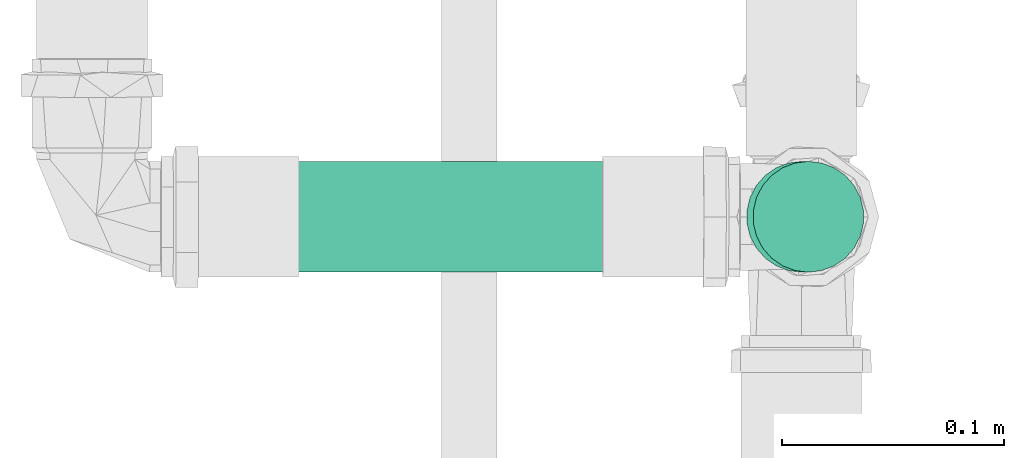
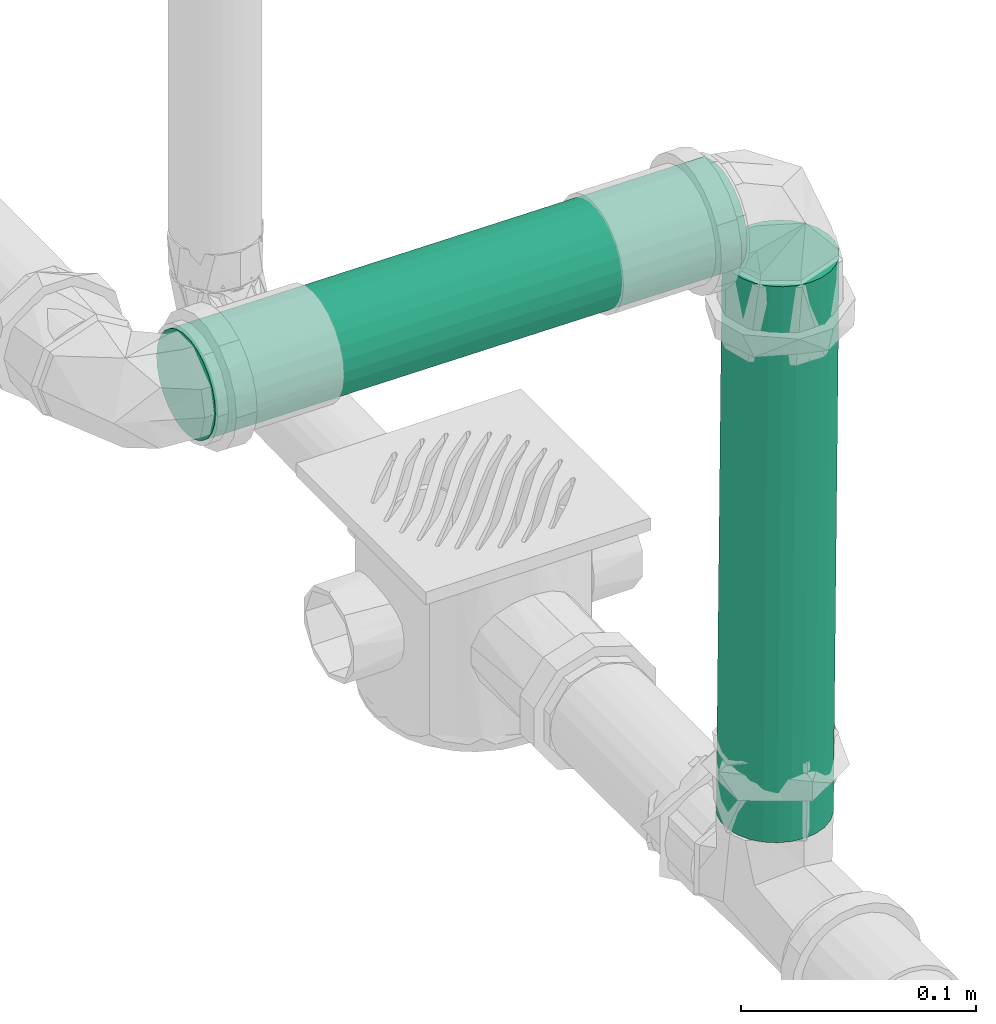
# One storey, part 183 of 589: 2 flow segments.
"""IFC2X3 building model written with IfcOpenShell, lengths in millimetres."""

from ifc_helpers import new_model, entity, si_unit, converted_unit, derived_unit, direction, frame, frame_2d, origin, place, context, subcontext, project, spatial, circle, extrude, type_object, element, save


model = new_model("IFC2X3")

# Units and contexts
model_context = context("Model", 3, precision=0.01, world=origin(), true_north=direction((6.123031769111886e-17, 1.0)))
body_context = subcontext(model_context, "Body", "Model", "MODEL_VIEW")
ifc_project = project(units=[si_unit("LENGTHUNIT", "METRE", prefix="MILLI"), si_unit("AREAUNIT", "SQUARE_METRE"), si_unit("VOLUMEUNIT", "CUBIC_METRE"), converted_unit("PLANEANGLEUNIT", "DEGREE", entity("IfcRatioMeasure", 0.017453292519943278), si_unit("PLANEANGLEUNIT", "RADIAN"), dimensions=[0, 0, 0, 0, 0, 0, 0]), si_unit("MASSUNIT", "GRAM", prefix="KILO"), derived_unit("MASSDENSITYUNIT", [(si_unit("MASSUNIT", "GRAM", prefix="KILO"), 1), (si_unit("LENGTHUNIT", "METRE"), -3)]), derived_unit("IONCONCENTRATIONUNIT", [(si_unit("MASSUNIT", "GRAM", prefix="KILO"), 1), (si_unit("LENGTHUNIT", "METRE"), -3)]), derived_unit("MOMENTOFINERTIAUNIT", [(si_unit("LENGTHUNIT", "METRE"), 4)]), si_unit("TIMEUNIT", "SECOND"), si_unit("FREQUENCYUNIT", "HERTZ"), si_unit("THERMODYNAMICTEMPERATUREUNIT", "DEGREE_CELSIUS"), derived_unit("THERMALTRANSMITTANCEUNIT", [(si_unit("MASSUNIT", "GRAM", prefix="KILO"), 1), (si_unit("THERMODYNAMICTEMPERATUREUNIT", "KELVIN"), -1), (si_unit("TIMEUNIT", "SECOND"), -3)]), derived_unit("THERMALCONDUCTANCEUNIT", [(si_unit("MASSUNIT", "GRAM", prefix="KILO"), 1), (si_unit("THERMODYNAMICTEMPERATUREUNIT", "KELVIN"), -1), (si_unit("TIMEUNIT", "SECOND"), -3), (si_unit("LENGTHUNIT", "METRE"), 1)]), derived_unit("VOLUMETRICFLOWRATEUNIT", [(si_unit("LENGTHUNIT", "METRE"), 3), (si_unit("TIMEUNIT", "SECOND"), -1)]), derived_unit("MASSFLOWRATEUNIT", [(si_unit("MASSUNIT", "GRAM", prefix="KILO"), 1), (si_unit("TIMEUNIT", "SECOND"), -1)]), derived_unit("ROTATIONALFREQUENCYUNIT", [(si_unit("TIMEUNIT", "SECOND"), -1)]), si_unit("ELECTRICCURRENTUNIT", "AMPERE"), si_unit("ELECTRICVOLTAGEUNIT", "VOLT"), si_unit("POWERUNIT", "WATT"), si_unit("FORCEUNIT", "NEWTON", prefix="KILO"), si_unit("ILLUMINANCEUNIT", "LUX"), si_unit("LUMINOUSFLUXUNIT", "LUMEN"), si_unit("LUMINOUSINTENSITYUNIT", "CANDELA"), derived_unit("USERDEFINED", [(si_unit("MASSUNIT", "GRAM", prefix="KILO"), -1), (si_unit("LENGTHUNIT", "METRE"), -2), (si_unit("TIMEUNIT", "SECOND"), 3), (si_unit("LUMINOUSFLUXUNIT", "LUMEN"), 1)]), derived_unit("USERDEFINED", [(si_unit("MASSUNIT", "GRAM", prefix="KILO"), 1), (si_unit("TIMEUNIT", "SECOND"), -3), (si_unit("LENGTHUNIT", "METRE"), 3), (si_unit("ELECTRICCURRENTUNIT", "AMPERE"), -2)]), derived_unit("SOUNDPOWERUNIT", [(si_unit("MASSUNIT", "GRAM", prefix="KILO"), 1), (si_unit("TIMEUNIT", "SECOND"), -3), (si_unit("LENGTHUNIT", "METRE"), 2)]), derived_unit("SOUNDPRESSUREUNIT", [(si_unit("MASSUNIT", "GRAM", prefix="KILO"), 1), (si_unit("LENGTHUNIT", "METRE"), -1), (si_unit("TIMEUNIT", "SECOND"), -2)]), derived_unit("LINEARVELOCITYUNIT", [(si_unit("LENGTHUNIT", "METRE"), 1), (si_unit("TIMEUNIT", "SECOND"), -1)]), si_unit("PRESSUREUNIT", "PASCAL"), derived_unit("USERDEFINED", [(si_unit("MASSUNIT", "GRAM", prefix="KILO"), 1), (si_unit("LENGTHUNIT", "METRE"), -2), (si_unit("TIMEUNIT", "SECOND"), -2)]), derived_unit("LINEARFORCEUNIT", [(si_unit("MASSUNIT", "GRAM", prefix="KILO"), 1), (si_unit("TIMEUNIT", "SECOND"), -2)]), derived_unit("PLANARFORCEUNIT", [(si_unit("MASSUNIT", "GRAM", prefix="KILO"), 1), (si_unit("LENGTHUNIT", "METRE"), -1), (si_unit("TIMEUNIT", "SECOND"), -2)]), derived_unit("SPECIFICHEATCAPACITYUNIT", [(si_unit("THERMODYNAMICTEMPERATUREUNIT", "KELVIN"), -1), (si_unit("LENGTHUNIT", "METRE"), 2), (si_unit("TIMEUNIT", "SECOND"), -2)]), derived_unit("HEATINGVALUEUNIT", [(si_unit("LENGTHUNIT", "METRE"), 2), (si_unit("TIMEUNIT", "SECOND"), -2)]), derived_unit("VAPORPERMEABILITYUNIT", [(si_unit("LENGTHUNIT", "METRE"), -1), (si_unit("TIMEUNIT", "SECOND"), 1)]), derived_unit("DYNAMICVISCOSITYUNIT", [(si_unit("MASSUNIT", "GRAM", prefix="KILO"), 1), (si_unit("TIMEUNIT", "SECOND"), -1), (si_unit("LENGTHUNIT", "METRE"), -1)]), derived_unit("THERMALEXPANSIONCOEFFICIENTUNIT", [(si_unit("THERMODYNAMICTEMPERATUREUNIT", "KELVIN"), -1)]), derived_unit("MODULUSOFELASTICITYUNIT", [(si_unit("MASSUNIT", "GRAM", prefix="KILO"), 1), (si_unit("LENGTHUNIT", "METRE"), -1), (si_unit("TIMEUNIT", "SECOND"), -2)]), derived_unit("ISOTHERMALMOISTURECAPACITYUNIT", [(si_unit("LENGTHUNIT", "METRE"), 3), (si_unit("MASSUNIT", "GRAM", prefix="KILO"), -1)]), derived_unit("MOISTUREDIFFUSIVITYUNIT", [(si_unit("TIMEUNIT", "SECOND"), -1), (si_unit("LENGTHUNIT", "METRE"), 2)])], contexts=[model_context])

# Site, building, storey
site_placement = place(None, origin())
site = spatial("IfcSite", under=ifc_project, at=site_placement, Name="Default", CompositionType="ELEMENT")
building_placement = place(site_placement, origin())
building = spatial("IfcBuilding", under=site, at=building_placement, CompositionType="ELEMENT")
storey_placement = place(building_placement, frame((0.0, 0.0, 100.0)))
storey = spatial("IfcBuildingStorey", under=building, at=storey_placement, Name="TÉRREO", CompositionType="ELEMENT", Elevation=100.0)

# Flow segments
pipe_segment_type = type_object("IfcPipeSegmentType", Name="Tipos de tubos:PVC Esgoto Série Normal", PredefinedType="NOTDEFINED")
flow_segment_1_placement = place(storey_placement, origin())
element("IfcFlowSegment", 1, at=flow_segment_1_placement, inside=storey, type_object=pipe_segment_type, Name="Tipos de tubos:PVC Esgoto Série Normal", ObjectType="Tipos de tubos:PVC Esgoto Série Normal", context=body_context, shape_type="SweptSolid", body=[
    extrude(circle(Radius=25.0, at=frame_2d((0.0, -3.383790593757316e-14), x_axis=(1.0, 0.0))), frame((10238.83944679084, -4779.93904253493, 80.27615457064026), z_axis=(-0.9999500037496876, 0.0, 0.009999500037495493), x_axis=(0.0, 1.0, 0.0)), (0.0, 0.0, 1.0), 261.20176140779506),
])
flow_segment_2_placement = place(storey_placement, origin())
element("IfcFlowSegment", 2, at=flow_segment_2_placement, inside=storey, type_object=pipe_segment_type, Name="Tipos de tubos:PVC Esgoto Série Normal", ObjectType="Tipos de tubos:PVC Esgoto Série Normal", context=body_context, shape_type="SweptSolid", body=[
    extrude(circle(Radius=25.0, at=frame_2d((5.414335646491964e-13, 0.0), x_axis=(1.0, 0.0))), frame((10266.848884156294, -4779.93904253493, -238.93610498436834), z_axis=(0.00999950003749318, 0.0, 0.9999500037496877), x_axis=(0.0, -1.0, 0.0)), (0.0, 0.0, 1.0), 287.7162197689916),
])

save(model, "model.ifc")
